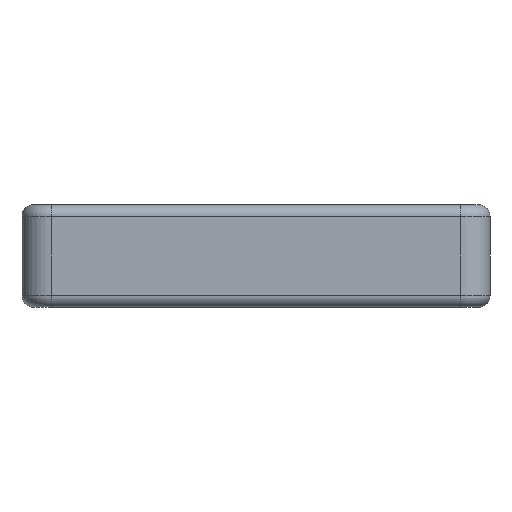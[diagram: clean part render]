
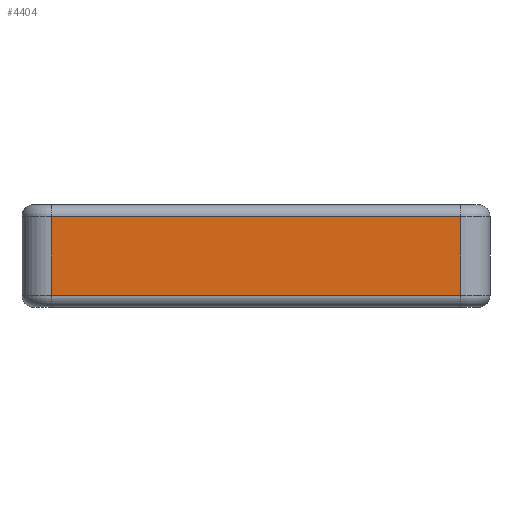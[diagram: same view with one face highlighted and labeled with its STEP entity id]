
A CAD part, front view. The second image highlights one B-rep face of the part: STEP entity #4404.
In plain terms, the highlighted planar face has unit normal (0, -1, 0).
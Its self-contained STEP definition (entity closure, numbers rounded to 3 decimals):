
#233 = VERTEX_POINT ( 'NONE', #2285 ) ;
#272 = CARTESIAN_POINT ( 'NONE',  ( 14., -16., 0.8 ) ) ;
#280 = AXIS2_PLACEMENT_3D ( 'NONE', #1425, #1356, #3398 ) ;
#364 = LINE ( 'NONE', #2750, #2274 ) ;
#410 = DIRECTION ( 'NONE',  ( 1., 0., 0. ) ) ;
#505 = CARTESIAN_POINT ( 'NONE',  ( 14., -16., 6.2 ) ) ;
#724 = ORIENTED_EDGE ( 'NONE', *, *, #2360, .T. ) ;
#870 = CARTESIAN_POINT ( 'NONE',  ( -14., -16., 0.8 ) ) ;
#988 = ORIENTED_EDGE ( 'NONE', *, *, #4027, .T. ) ;
#993 = VERTEX_POINT ( 'NONE', #870 ) ;
#1356 = DIRECTION ( 'NONE',  ( 0., 1., 0. ) ) ;
#1425 = CARTESIAN_POINT ( 'NONE',  ( -16., -16., 7. ) ) ;
#1433 = VECTOR ( 'NONE', #3054, 1000. ) ;
#1562 = DIRECTION ( 'NONE',  ( 0., 0., 1. ) ) ;
#1675 = CARTESIAN_POINT ( 'NONE',  ( -14., -16., 6.2 ) ) ;
#1691 = LINE ( 'NONE', #2118, #3830 ) ;
#1924 = EDGE_LOOP ( 'NONE', ( #3703, #2492, #724, #988 ) ) ;
#2011 = LINE ( 'NONE', #1675, #1433 ) ;
#2104 = EDGE_CURVE ( 'NONE', #4180, #2146, #2204, .T. ) ;
#2118 = CARTESIAN_POINT ( 'NONE',  ( -14., -16., 7. ) ) ;
#2146 = VERTEX_POINT ( 'NONE', #505 ) ;
#2204 = LINE ( 'NONE', #3895, #4215 ) ;
#2274 = VECTOR ( 'NONE', #410, 1000. ) ;
#2285 = CARTESIAN_POINT ( 'NONE',  ( -14., -16., 6.2 ) ) ;
#2360 = EDGE_CURVE ( 'NONE', #233, #993, #1691, .T. ) ;
#2444 = DIRECTION ( 'NONE',  ( 0., 0., -1. ) ) ;
#2492 = ORIENTED_EDGE ( 'NONE', *, *, #3685, .T. ) ;
#2744 = PLANE ( 'NONE',  #280 ) ;
#2750 = CARTESIAN_POINT ( 'NONE',  ( -16., -16., 0.8 ) ) ;
#3054 = DIRECTION ( 'NONE',  ( -1., 0., 0. ) ) ;
#3373 = FACE_OUTER_BOUND ( 'NONE', #1924, .T. ) ;
#3398 = DIRECTION ( 'NONE',  ( 0., 0., 1. ) ) ;
#3685 = EDGE_CURVE ( 'NONE', #2146, #233, #2011, .T. ) ;
#3703 = ORIENTED_EDGE ( 'NONE', *, *, #2104, .T. ) ;
#3830 = VECTOR ( 'NONE', #2444, 1000. ) ;
#3895 = CARTESIAN_POINT ( 'NONE',  ( 14., -16., 7. ) ) ;
#4027 = EDGE_CURVE ( 'NONE', #993, #4180, #364, .T. ) ;
#4180 = VERTEX_POINT ( 'NONE', #272 ) ;
#4215 = VECTOR ( 'NONE', #1562, 1000. ) ;
#4404 = ADVANCED_FACE ( 'NONE', ( #3373 ), #2744, .F. ) ;
